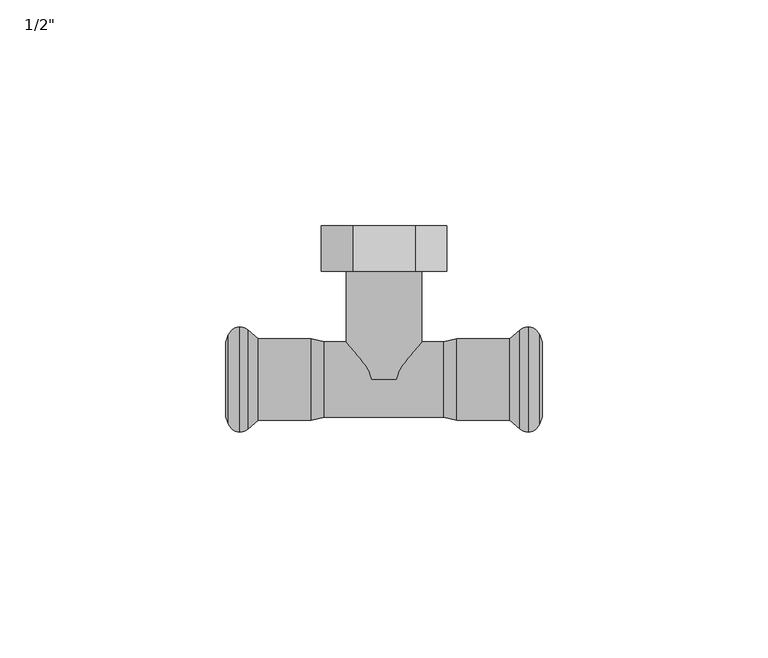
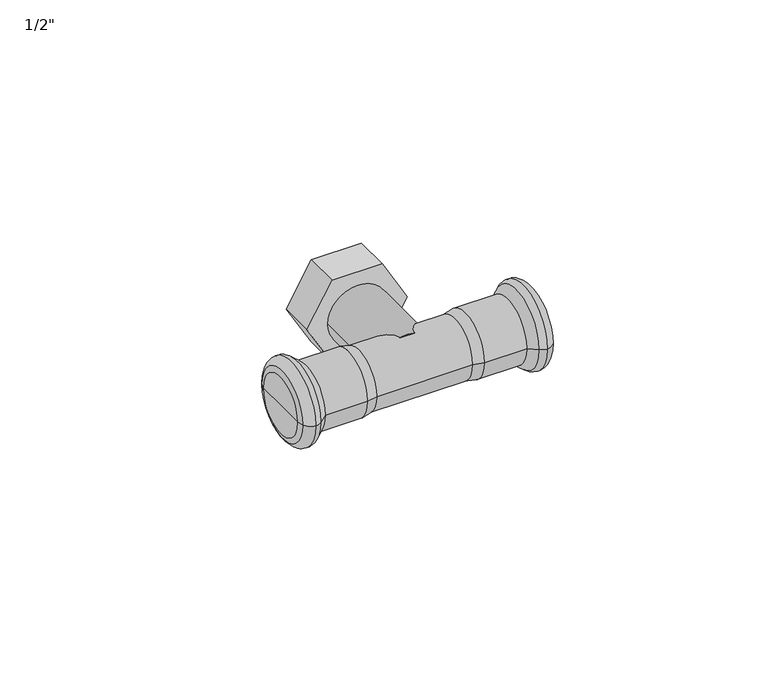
"""IFC4 building model written with IfcOpenShell, lengths in millimetres: pipe fitting geometry."""

import ifcopenshell
import ifcopenshell.guid

model = None  # the IFC model being written
_history = None  # IfcOwnerHistory: only IFC2X3 demands one
_inside = {}  # id of a spatial element -> (the spatial element, [elements in it])
_under = {}  # id of a project, library or spatial element -> (it, [spatial elements below it])
_declared = {}  # id of a project -> (the project, [libraries it declares])
_typed = {}  # id of a type object -> (the type object, [elements of that type])
_made_of = {}  # id of a material, layer set ... -> (it, [elements and type objects made of it])


def new_model(schema):
    """Start an empty IFC model of exactly this schema.

    Asked for "IFC4X3", IfcOpenShell would pick the latest addendum, in which some entities
    have other attributes; the version numbers below select the first issue.
    IFC2X3 requires an IfcOwnerHistory on every rooted entity: one is made here for all.
    """
    global model, _history
    if schema == "IFC4X3":
        model = ifcopenshell.file(schema_version=(4, 3, 0, 0))
    else:
        model = ifcopenshell.file(schema=schema)
    _inside.clear()
    _under.clear()
    _declared.clear()
    _typed.clear()
    _made_of.clear()
    _history = None
    if model.schema == "IFC2X3":
        org = make("IfcOrganization", Name="unknown")
        user = make(
            "IfcPersonAndOrganization",
            ThePerson=make("IfcPerson", FamilyName="unknown"),
            TheOrganization=org,
        )
        app = make(
            "IfcApplication",
            ApplicationDeveloper=org,
            Version="unknown",
            ApplicationFullName="unknown",
            ApplicationIdentifier="unknown",
        )
        _history = make(
            "IfcOwnerHistory",
            OwningUser=user,
            OwningApplication=app,
            ChangeAction="ADDED",
            CreationDate=0,
        )
    return model


def make(cls, **values):
    """One entity of the class cls with the attributes given. An attribute that is None is left unset."""
    return model.create_entity(
        cls, **{name: value for name, value in values.items() if value is not None}
    )


def rooted(cls, **values):
    """An entity with a GlobalId (a new one), such as an element, a storey or a relation."""
    return make(cls, GlobalId=ifcopenshell.guid.new(), OwnerHistory=_history, **values)


def si_unit(unit_type, name, prefix=None):
    """IfcSIUnit, for example si_unit("LENGTHUNIT", "METRE", prefix="MILLI")."""
    return make("IfcSIUnit", UnitType=unit_type, Prefix=prefix, Name=name)


def assignment(units):
    """IfcUnitAssignment: the units of a project."""
    return None if units is None else make("IfcUnitAssignment", Units=units)


def point(xyz):
    """IfcCartesianPoint."""
    return None if xyz is None else make("IfcCartesianPoint", Coordinates=xyz)


def direction(xyz):
    """IfcDirection."""
    return None if xyz is None else make("IfcDirection", DirectionRatios=xyz)


def frame(location, z_axis=None, x_axis=None):
    """IfcAxis2Placement3D, a coordinate frame: its origin and axes. An axis left out is left unset."""
    return make(
        "IfcAxis2Placement3D",
        Location=point(location),
        Axis=direction(z_axis),
        RefDirection=direction(x_axis),
    )


def frame_2d(location, x_axis=None):
    """IfcAxis2Placement2D, a coordinate frame in the plane: its origin and x axis."""
    return make(
        "IfcAxis2Placement2D", Location=point(location), RefDirection=direction(x_axis)
    )


def origin():
    """The frame at (0, 0, 0) with its axes left unset."""
    return frame((0.0, 0.0, 0.0))


def origin_2d():
    """The frame at (0, 0) in the plane with its x axis left unset."""
    return frame_2d((0.0, 0.0))


def place(relative_to, where):
    """IfcLocalPlacement: puts the frame where relative to a parent placement (None: the world)."""
    return make(
        "IfcLocalPlacement", PlacementRelTo=relative_to, RelativePlacement=where
    )


def context(
    kind, dimensions, precision=None, world=None, true_north=None, identifier=None
):
    """IfcGeometricRepresentationContext, for example the 3D "Model" context."""
    return make(
        "IfcGeometricRepresentationContext",
        ContextIdentifier=identifier,
        ContextType=kind,
        CoordinateSpaceDimension=dimensions,
        Precision=precision,
        WorldCoordinateSystem=world,
        TrueNorth=true_north,
    )


def project(units=None, contexts=None):
    """IfcProject with its units and contexts."""
    return rooted(
        "IfcProject",
        Name="project",
        RepresentationContexts=contexts,
        UnitsInContext=assignment(units),
    )


def spatial(cls, under=None, at=None, **own):
    """A site, building, storey or space (cls), placed at a placement, below another one or the project."""
    s = rooted(cls, ObjectPlacement=at, **own)
    if under is not None:
        _under.setdefault(under.id(), (under, []))[1].append(s)
    return s


def polyline(points):
    """IfcPolyline through the points."""
    return make("IfcPolyline", Points=[point(p) for p in points])


def circle_curve(where, radius):
    """IfcCircle in the frame where."""
    return make("IfcCircle", Position=where, Radius=radius)


def ellipse_curve(where, semi_axis1, semi_axis2):
    """IfcEllipse in the frame where."""
    return make(
        "IfcEllipse", Position=where, SemiAxis1=semi_axis1, SemiAxis2=semi_axis2
    )


def trimmed(basis, trim1, trim2, sense, master):
    """IfcTrimmedCurve: the piece of a basis curve between two trims."""
    return make(
        "IfcTrimmedCurve",
        BasisCurve=basis,
        Trim1=trim1,
        Trim2=trim2,
        SenseAgreement=sense,
        MasterRepresentation=master,
    )


def segment(curve, same_sense, transition):
    """IfcCompositeCurveSegment."""
    return make(
        "IfcCompositeCurveSegment",
        Transition=transition,
        SameSense=same_sense,
        ParentCurve=curve,
    )


def composite_curve(segments, self_intersect=None):
    """IfcCompositeCurve: segments joined end to end."""
    return make("IfcCompositeCurve", Segments=segments, SelfIntersect=self_intersect)


def outline(outer, holes=None, kind="AREA"):
    """IfcArbitraryClosedProfileDef: a profile drawn as a closed curve; with holes, ...WithVoids."""
    if holes is None:
        return make("IfcArbitraryClosedProfileDef", ProfileType=kind, OuterCurve=outer)
    return make(
        "IfcArbitraryProfileDefWithVoids",
        ProfileType=kind,
        OuterCurve=outer,
        InnerCurves=holes,
    )


def extrude(swept, where, along, depth):
    """IfcExtrudedAreaSolid: the profile swept, set in the frame where, extruded along a direction by depth."""
    return make(
        "IfcExtrudedAreaSolid",
        SweptArea=swept,
        Position=where,
        ExtrudedDirection=direction(along),
        Depth=depth,
    )


def shape(context_of_items, identifier, shape_type, items):
    """IfcShapeRepresentation: the items that make up one representation, for example the "Body"."""
    return make(
        "IfcShapeRepresentation",
        ContextOfItems=context_of_items,
        RepresentationIdentifier=identifier,
        RepresentationType=shape_type,
        Items=items,
    )


def source(mapping_origin, context_of_items, identifier, shape_type, items):
    """IfcRepresentationMap: a shape defined once, which mapped items show again and again."""
    return make(
        "IfcRepresentationMap",
        MappingOrigin=mapping_origin,
        MappedRepresentation=shape(context_of_items, identifier, shape_type, items),
    )


def transform(
    local_origin,
    x_axis=None,
    y_axis=None,
    z_axis=None,
    scale=None,
    scale2=None,
    scale3=None,
    uniform=True,
):
    """IfcCartesianTransformationOperator3D, or its non-uniform kind. x_axis, y_axis, z_axis: its Axis1, 2, 3."""
    if uniform:
        return make(
            "IfcCartesianTransformationOperator3D",
            Axis1=direction(x_axis),
            Axis2=direction(y_axis),
            LocalOrigin=point(local_origin),
            Scale=scale,
            Axis3=direction(z_axis),
        )
    return make(
        "IfcCartesianTransformationOperator3DnonUniform",
        Axis1=direction(x_axis),
        Axis2=direction(y_axis),
        LocalOrigin=point(local_origin),
        Scale=scale,
        Axis3=direction(z_axis),
        Scale2=scale2,
        Scale3=scale3,
    )


def mapped(mapping_source, mapping_target):
    """IfcMappedItem: shows the shape of a source again, moved by a transform."""
    return make(
        "IfcMappedItem", MappingSource=mapping_source, MappingTarget=mapping_target
    )


def made_of(thing, what):
    """Note that an element or type object is made of a material, layer set ...; save() writes the relation."""
    if what is not None:
        _made_of.setdefault(what.id(), (what, []))[1].append(thing)
    return thing


def element(
    cls,
    number,
    at=None,
    inside=None,
    cuts=None,
    type_object=None,
    material=None,
    context=None,
    identifier="Body",
    shape_type=None,
    held_by="IfcProductDefinitionShape",
    body=None,
    shapes=None,
    **own,
):
    """One element of the class cls, such as IfcWall. Its Tag is "e" and its number.

    at: its placement. inside: the storey or other place that contains it. cuts: it is an
    opening in that element (IfcRelVoidsElement). A single representation is given by context,
    identifier, shape_type and body (its items); several are given by shapes. held_by: the class
    of the entity that holds the representations. save() writes the other relations.
    """
    e = rooted(cls, Tag="e%d" % number, ObjectPlacement=at, **own)
    if body is not None:
        shapes = [shape(context, identifier, shape_type, body)]
    if shapes is not None:
        e.Representation = make(held_by, Representations=shapes)
    if inside is not None:
        _inside.setdefault(inside.id(), (inside, []))[1].append(e)
    if cuts is not None:
        rooted(
            "IfcRelVoidsElement", RelatingBuildingElement=cuts, RelatedOpeningElement=e
        )
    if type_object is not None:
        _typed.setdefault(type_object.id(), (type_object, []))[1].append(e)
    return made_of(e, material)


def aggregate(whole, parts):
    """IfcRelAggregates: a whole, such as a stair, and the parts it consists of."""
    return rooted("IfcRelAggregates", RelatingObject=whole, RelatedObjects=parts)


def save(model, path):
    """Write the relations noted so far, then the file.

    IfcRelAggregates (storeys below a building ...), IfcRelContainedInSpatialStructure (elements
    in a storey), IfcRelDefinesByType, IfcRelAssociatesMaterial and IfcRelDeclares: one each for
    every whole, place, type object, material and project.
    """
    for whole, parts in _under.values():
        aggregate(whole, parts)
    for where, things in _inside.values():
        rooted(
            "IfcRelContainedInSpatialStructure",
            RelatedElements=things,
            RelatingStructure=where,
        )
    for kind, things in _typed.values():
        rooted("IfcRelDefinesByType", RelatedObjects=things, RelatingType=kind)
    for what, things in _made_of.values():
        rooted("IfcRelAssociatesMaterial", RelatedObjects=things, RelatingMaterial=what)
    for by, libraries in _declared.values():
        rooted("IfcRelDeclares", RelatingContext=by, RelatedDefinitions=libraries)
    model.write(path)


def plane_surface(at):
    """IfcPlane: the flat surface through the origin of the frame at, square to its z axis."""
    return make("IfcPlane", Position=at)


def cylinder_surface(at, radius):
    """IfcCylindricalSurface: all points at the distance radius from the z axis of the frame at."""
    return make("IfcCylindricalSurface", Position=at, Radius=radius)


def revolved_surface(curve, axis_point, axis_direction):
    """IfcSurfaceOfRevolution: the curve turned about the line through axis_point along axis_direction."""
    return make(
        "IfcSurfaceOfRevolution",
        SweptCurve=make("IfcArbitraryOpenProfileDef", ProfileType="CURVE", Curve=curve),
        AxisPosition=make("IfcAxis1Placement", Location=point(axis_point), Axis=direction(axis_direction)),
    )


def advanced_brep(points, edges, surfaces, faces):
    """IfcAdvancedBrep: a solid bounded by faces that lie on surfaces and meet in shared edges.

    An edge is (start, end): straight between two places in points (the first is 0);
    or (start, end, curve); or (start, end, curve, False) where it runs against its curve.
    A face is (place in surfaces, loops), or (place, loops, False) where it looks against
    its surface's normal. A loop lists edges by number (the first is 1), with a minus sign
    where the edge is run from its end to its start. The first loop is the outer one.
    """
    corners = [point(p) for p in points]
    vertices = [make("IfcVertexPoint", VertexGeometry=c) for c in corners]
    made = []
    for start, end, *more in edges:
        made.append(
            make(
                "IfcEdgeCurve",
                EdgeStart=vertices[start],
                EdgeEnd=vertices[end],
                EdgeGeometry=more[0] if more else make("IfcPolyline", Points=[corners[start], corners[end]]),
                SameSense=more[1] if len(more) > 1 else True,
            )
        )
    hull = []
    for where, loops, *sense in faces:
        bounds = []
        for j, loop in enumerate(loops):
            ring = [make("IfcOrientedEdge", EdgeElement=made[abs(k) - 1], Orientation=k > 0) for k in loop]
            bounds.append(
                make(
                    "IfcFaceOuterBound" if j == 0 else "IfcFaceBound",
                    Bound=make("IfcEdgeLoop", EdgeList=ring),
                    Orientation=True,
                )
            )
        hull.append(make("IfcAdvancedFace", Bounds=bounds, FaceSurface=surfaces[where], SameSense=sense[0] if sense else True))
    return make("IfcAdvancedBrep", Outer=make("IfcClosedShell", CfsFaces=hull))


def pipe_fitting_2844614e(model_context):
    return source(origin(), model_context, "Body", "SolidModel", [
        extrude(outline(polyline([(0.0, 13.8564065), (12.0, 6.9282032), (12.0, -6.9282032), (0.0, -13.8564065), (-12.0, -6.9282032), (-12.0, 6.9282032), (0.0, 13.8564065)])), frame((0.0, 24.0, 0.0), z_axis=(0.0, 1.0, 0.0), x_axis=(0.0, 0.0, 1.0)), (0.0, 0.0, 1.0), 10.0),
        extrude(outline(composite_curve([segment(trimmed(circle_curve(origin_2d(), 8.4), [point((0.0, 8.4))], [point((0.0, -8.4))], False, "CARTESIAN"), True, "CONTINUOUS"), segment(trimmed(circle_curve(origin_2d(), 8.4), [point((0.0, -8.4))], [point((0.0, 8.4))], False, "CARTESIAN"), True, "CONTINUOUS")], self_intersect=False)), frame((0.0, 0.0, 0.0), z_axis=(0.0, 1.0, 0.0), x_axis=(0.0, 0.0, 1.0)), (0.0, 0.0, 1.0), 24.0),
        advanced_brep(
        [(30.0922627, -10.9370225, 0.0), (30.0922627, 10.9370225, 0.0), (31.8921278, 11.625, 0.0), (31.8921278, -11.625, 0.0), (27.7838092, -9.0, 0.0), (27.7838092, 9.0, 0.0), (16.1180407, -9.0, 0.0), (16.1180407, 9.0, 0.0), (13.2, -8.4, 0.0), (13.2, 8.4, 0.0), (-13.2, -8.4, 0.0), (-13.2, 8.4, 0.0), (-16.1180407, -9.0, 0.0), (-16.1180407, 9.0, 0.0), (-27.7838092, -9.0, 0.0), (-27.7838092, 9.0, 0.0), (-30.0922627, -10.9370225, 0.0), (-30.0922627, 10.9370225, 0.0), (-31.8921278, -11.625, 0.0), (-31.8921278, 11.625, 0.0), (-34.432052, -9.8484544, 0.0), (-34.432052, 9.8484544, 0.0), (-35.0, -8.2880302, 0.0), (-35.0, 8.2880302, 0.0), (-35.0, 0.0, 0.0), (35.0, -8.2880302, 0.0), (35.0, 8.2880302, 0.0), (35.0, 0.0, 0.0), (34.432052, -9.8484544, 0.0), (34.432052, 9.8484544, 0.0)],
        [
            (0, 1, circle_curve(frame((30.0922627, 0.0, 0.0), z_axis=(1.0, 0.0, 0.0), x_axis=(0.0, 1.0, 0.0)), 10.9370225)),
            (1, 2, circle_curve(frame((31.8935049, 8.9230333, 0.0), z_axis=(0.0, 0.0, -1.0), x_axis=(1.0, 0.0, 0.0)), 2.701967)),
            (2, 3, circle_curve(frame((31.8921278, 0.0, 0.0), z_axis=(-1.0, 0.0, 0.0), x_axis=(0.0, 1.0, 0.0)), 11.625)),
            (3, 0, circle_curve(frame((31.8935049, -8.9230333, 0.0), z_axis=(0.0, 0.0, -1.0), x_axis=(1.0, 0.0, 0.0)), 2.701967)),
            (1, 0, circle_curve(frame((30.0922627, 0.0, 0.0), z_axis=(1.0, 0.0, 0.0), x_axis=(0.0, 1.0, 0.0)), 10.9370225)),
            (3, 2, circle_curve(frame((31.8921278, 0.0, 0.0), z_axis=(-1.0, 0.0, 0.0), x_axis=(0.0, 1.0, 0.0)), 11.625)),
            (4, 5, circle_curve(frame((27.7838092, 0.0, 0.0), z_axis=(1.0, 0.0, 0.0), x_axis=(0.0, 1.0, 0.0)), 9.0)),
            (5, 1),
            (0, 4),
            (5, 4, circle_curve(frame((27.7838092, 0.0, 0.0), z_axis=(1.0, 0.0, 0.0), x_axis=(0.0, 1.0, 0.0)), 9.0)),
            (6, 7, circle_curve(frame((16.1180407, 0.0, 0.0), z_axis=(1.0, 0.0, 0.0), x_axis=(0.0, 1.0, 0.0)), 9.0)),
            (7, 5),
            (4, 6),
            (7, 6, circle_curve(frame((16.1180407, 0.0, 0.0), z_axis=(1.0, 0.0, 0.0), x_axis=(0.0, 1.0, 0.0)), 9.0)),
            (8, 9, circle_curve(frame((13.2, 0.0, 0.0), z_axis=(1.0, 0.0, 0.0), x_axis=(0.0, 1.0, 0.0)), 8.4)),
            (9, 7),
            (6, 8),
            (9, 8, circle_curve(frame((13.2, 0.0, 0.0), z_axis=(1.0, 0.0, 0.0), x_axis=(0.0, 1.0, 0.0)), 8.4)),
            (10, 11, circle_curve(frame((-13.2, 0.0, 0.0), z_axis=(1.0, 0.0, 0.0), x_axis=(0.0, 1.0, 0.0)), 8.4)),
            (11, 9),
            (8, 10),
            (11, 10, circle_curve(frame((-13.2, 0.0, 0.0), z_axis=(1.0, 0.0, 0.0), x_axis=(0.0, 1.0, 0.0)), 8.4)),
            (12, 13, circle_curve(frame((-16.1180407, 0.0, 0.0), z_axis=(1.0, 0.0, 0.0), x_axis=(0.0, 1.0, 0.0)), 9.0)),
            (13, 11),
            (10, 12),
            (13, 12, circle_curve(frame((-16.1180407, 0.0, 0.0), z_axis=(1.0, 0.0, 0.0), x_axis=(0.0, 1.0, 0.0)), 9.0)),
            (14, 15, circle_curve(frame((-27.7838092, 0.0, 0.0), z_axis=(1.0, 0.0, 0.0), x_axis=(0.0, 1.0, 0.0)), 9.0)),
            (15, 13),
            (12, 14),
            (15, 14, circle_curve(frame((-27.7838092, 0.0, 0.0), z_axis=(1.0, 0.0, 0.0), x_axis=(0.0, 1.0, 0.0)), 9.0)),
            (16, 17, circle_curve(frame((-30.0922627, 0.0, 0.0), z_axis=(1.0, 0.0, 0.0), x_axis=(0.0, 1.0, 0.0)), 10.9370225)),
            (17, 15),
            (14, 16),
            (17, 16, circle_curve(frame((-30.0922627, 0.0, 0.0), z_axis=(1.0, 0.0, 0.0), x_axis=(0.0, 1.0, 0.0)), 10.9370225)),
            (18, 19, circle_curve(frame((-31.8921278, 0.0, 0.0), z_axis=(1.0, 0.0, 0.0), x_axis=(0.0, 1.0, 0.0)), 11.625)),
            (19, 17, circle_curve(frame((-31.8935049, 8.9230333, 0.0), z_axis=(0.0, 0.0, -1.0), x_axis=(1.0, 0.0, 0.0)), 2.701967)),
            (16, 18, circle_curve(frame((-31.8935049, -8.9230333, 0.0), z_axis=(0.0, 0.0, -1.0), x_axis=(1.0, 0.0, 0.0)), 2.701967)),
            (19, 18, circle_curve(frame((-31.8921278, 0.0, 0.0), z_axis=(1.0, 0.0, 0.0), x_axis=(0.0, 1.0, 0.0)), 11.625)),
            (20, 21, circle_curve(frame((-34.432052, 0.0, 0.0), z_axis=(1.0, 0.0, 0.0), x_axis=(0.0, 1.0, 0.0)), 9.8484544)),
            (21, 19, circle_curve(frame((-31.89488, 8.9249993, 0.0), z_axis=(0.0, 0.0, -1.0), x_axis=(1.0, 0.0, 0.0)), 2.7000021)),
            (18, 20, circle_curve(frame((-31.89488, -8.9249993, 0.0), z_axis=(0.0, 0.0, -1.0), x_axis=(1.0, 0.0, 0.0)), 2.7000021)),
            (21, 20, circle_curve(frame((-34.432052, 0.0, 0.0), z_axis=(1.0, 0.0, 0.0), x_axis=(0.0, 1.0, 0.0)), 9.8484544)),
            (22, 23, circle_curve(frame((-35.0, 0.0, 0.0), z_axis=(1.0, 0.0, 0.0), x_axis=(0.0, 1.0, 0.0)), 8.2880302)),
            (23, 21),
            (20, 22),
            (23, 22, circle_curve(frame((-35.0, 0.0, 0.0), z_axis=(1.0, 0.0, 0.0), x_axis=(0.0, 1.0, 0.0)), 8.2880302)),
            (24, 23),
            (22, 24),
            (25, 26, circle_curve(frame((35.0, 0.0, 0.0), z_axis=(1.0, 0.0, 0.0), x_axis=(0.0, 1.0, 0.0)), 8.2880302)),
            (26, 27),
            (27, 25),
            (26, 25, circle_curve(frame((35.0, 0.0, 0.0), z_axis=(1.0, 0.0, 0.0), x_axis=(0.0, 1.0, 0.0)), 8.2880302)),
            (28, 29, circle_curve(frame((34.432052, 0.0, 0.0), z_axis=(1.0, 0.0, 0.0), x_axis=(0.0, 1.0, 0.0)), 9.8484544)),
            (29, 26),
            (25, 28),
            (29, 28, circle_curve(frame((34.432052, 0.0, 0.0), z_axis=(1.0, 0.0, 0.0), x_axis=(0.0, 1.0, 0.0)), 9.8484544)),
            (2, 29, circle_curve(frame((31.89488, 8.9249993, 0.0), z_axis=(0.0, 0.0, -1.0), x_axis=(1.0, 0.0, 0.0)), 2.7000021)),
            (28, 3, circle_curve(frame((31.89488, -8.9249993, 0.0), z_axis=(0.0, 0.0, -1.0), x_axis=(1.0, 0.0, 0.0)), 2.7000021)),
        ],
        [
            revolved_surface(trimmed(ellipse_curve(frame((31.8935049, 8.9230333, 0.0), z_axis=(0.0, 0.0, 1.0), x_axis=(1.0, 0.0, 0.0)), 2.701967, 2.701967), [point((31.8921278, 11.625, 0.0))], [point((30.0922627, 10.9370225, 0.0))], True, "CARTESIAN"), (1348.742668, 0.0, 0.0), (-1.0, 0.0, 0.0)),
            revolved_surface(polyline([(30.0922627, 10.9370225, 0.0), (27.7838092, 9.0, 0.0)]), (1348.742668, 0.0, 0.0), (-1.0, 0.0, 0.0)),
            cylinder_surface(frame((1348.742668, 0.0, 0.0), z_axis=(-1.0, 0.0, 0.0), x_axis=(0.0, 1.0, 0.0)), 9.0),
            revolved_surface(polyline([(16.1180407, 9.0, 0.0), (13.2, 8.4, 0.0)]), (1348.742668, 0.0, 0.0), (-1.0, 0.0, 0.0)),
            cylinder_surface(frame((1348.742668, 0.0, 0.0), z_axis=(-1.0, 0.0, 0.0), x_axis=(0.0, 1.0, 0.0)), 8.4),
            revolved_surface(polyline([(-13.2, 8.4, 0.0), (-16.1180407, 9.0, 0.0)]), (1348.742668, 0.0, 0.0), (-1.0, 0.0, 0.0)),
            revolved_surface(polyline([(-27.7838092, 9.0, 0.0), (-30.0922627, 10.9370225, 0.0)]), (1348.742668, 0.0, 0.0), (-1.0, 0.0, 0.0)),
            revolved_surface(trimmed(ellipse_curve(frame((-31.8935049, 8.9230333, 0.0), z_axis=(0.0, 0.0, 1.0), x_axis=(1.0, 0.0, 0.0)), 2.701967, 2.701967), [point((-30.0922627, 10.9370225, 0.0))], [point((-31.8921278, 11.625, 0.0))], True, "CARTESIAN"), (1348.742668, 0.0, 0.0), (-1.0, 0.0, 0.0)),
            revolved_surface(trimmed(ellipse_curve(frame((-31.89488, 8.9249993, 0.0), z_axis=(0.0, 0.0, 1.0), x_axis=(1.0, 0.0, 0.0)), 2.7000021, 2.7000021), [point((-31.8921278, 11.625, 0.0))], [point((-34.432052, 9.8484544, 0.0))], True, "CARTESIAN"), (1348.742668, 0.0, 0.0), (-1.0, 0.0, 0.0)),
            revolved_surface(polyline([(-34.432052, 9.8484544, 0.0), (-35.0, 8.2880302, 0.0)]), (1348.742668, 0.0, 0.0), (-1.0, 0.0, 0.0)),
            plane_surface(frame((-35.0, 0.0, 0.0), z_axis=(-1.0, 0.0, 0.0), x_axis=(0.0, 1.0, 0.0))),
            plane_surface(frame((35.0, 0.0, 0.0), z_axis=(1.0, 0.0, 0.0), x_axis=(0.0, 1.0, 0.0))),
            revolved_surface(polyline([(35.0, 8.2880302, 0.0), (34.432052, 9.8484544, 0.0)]), (1348.742668, 0.0, 0.0), (-1.0, 0.0, 0.0)),
            revolved_surface(trimmed(ellipse_curve(frame((31.89488, 8.9249993, 0.0), z_axis=(0.0, 0.0, 1.0), x_axis=(1.0, 0.0, 0.0)), 2.7000021, 2.7000021), [point((34.432052, 9.8484544, 0.0))], [point((31.8921278, 11.625, 0.0))], True, "CARTESIAN"), (1348.742668, 0.0, 0.0), (-1.0, 0.0, 0.0)),
        ],
        [
            (0, [[1, 2, 3, 4]]),
            (0, [[5, -4, 6, -2]]),
            (1, [[7, 8, -1, 9]]),
            (1, [[10, -9, -5, -8]]),
            (2, [[11, 12, -7, 13]]),
            (2, [[14, -13, -10, -12]]),
            (3, [[15, 16, -11, 17]]),
            (3, [[18, -17, -14, -16]]),
            (4, [[19, 20, -15, 21]]),
            (4, [[22, -21, -18, -20]]),
            (5, [[23, 24, -19, 25]]),
            (5, [[26, -25, -22, -24]]),
            (2, [[27, 28, -23, 29]]),
            (2, [[30, -29, -26, -28]]),
            (6, [[31, 32, -27, 33]]),
            (6, [[34, -33, -30, -32]]),
            (7, [[35, 36, -31, 37]]),
            (7, [[38, -37, -34, -36]]),
            (8, [[39, 40, -35, 41]]),
            (8, [[42, -41, -38, -40]]),
            (9, [[43, 44, -39, 45]]),
            (9, [[46, -45, -42, -44]]),
            (10, [[47, -43, 48]]),
            (10, [[-48, -46, -47]]),
            (11, [[49, 50, 51]]),
            (11, [[52, -51, -50]]),
            (12, [[53, 54, -49, 55]]),
            (12, [[56, -55, -52, -54]]),
            (13, [[-3, 57, -53, 58]]),
            (13, [[-6, -58, -56, -57]]),
        ],
    ),
    ])


if __name__ == "__main__":
    model = new_model("IFC4")
    model_context = context("Model", 3, world=origin())
    ifc_project = project(units=[si_unit("LENGTHUNIT", "METRE", prefix="MILLI")], contexts=[model_context])
    site = spatial("IfcSite", under=ifc_project)
    building = spatial("IfcBuilding", under=site)
    placement = place(None, origin())
    pipe_fitting_shape = pipe_fitting_2844614e(model_context)
    element("IfcPipeFitting", 1, ObjectType="KAN-therm Inox trójnik z GW : 1/2\"", at=placement, inside=building, context=model_context, shape_type="MappedRepresentation", body=[
        mapped(pipe_fitting_shape, transform((0.0, 0.0, 0.0), x_axis=(1.0, 0.0, 0.0), y_axis=(0.0, 1.0, 0.0), z_axis=(0.0, 0.0, 1.0))),
    ])
    save(model, "model.ifc")
